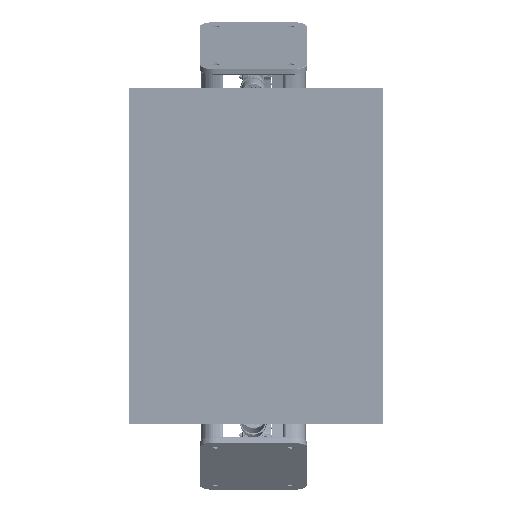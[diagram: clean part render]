
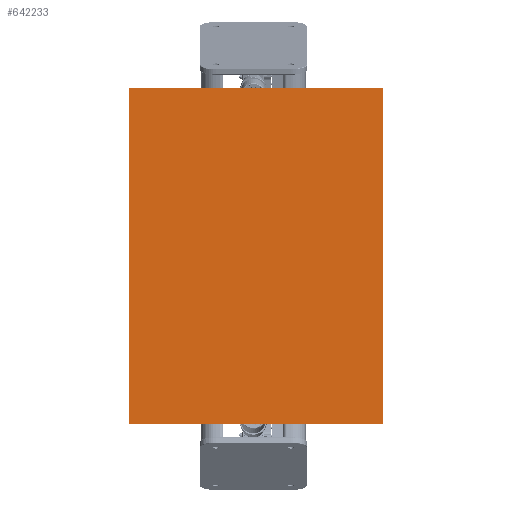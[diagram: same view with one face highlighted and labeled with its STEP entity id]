
A CAD part, front view. The second image highlights one B-rep face of the part: STEP entity #642233.
In plain terms, the highlighted planar face has unit normal (0, -1, 0) as drawn and (0, 0, -1) by its records, which use the part's own axes.
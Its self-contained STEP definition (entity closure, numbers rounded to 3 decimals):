
#642118=DIRECTION('',(0.,1.,0.));
#642119=VECTOR('',#642118,340.);
#642120=CARTESIAN_POINT('',(-225.,-170.,-860.));
#642121=LINE('',#642120,#642119);
#642122=DIRECTION('',(-1.,0.,0.));
#642123=VECTOR('',#642122,450.);
#642124=CARTESIAN_POINT('',(225.,-170.,-860.));
#642125=LINE('',#642124,#642123);
#642126=DIRECTION('',(0.,1.,0.));
#642127=VECTOR('',#642126,340.);
#642128=CARTESIAN_POINT('',(225.,-170.,-860.));
#642129=LINE('',#642128,#642127);
#642130=DIRECTION('',(-1.,0.,0.));
#642131=VECTOR('',#642130,450.);
#642132=CARTESIAN_POINT('',(225.,170.,-860.));
#642133=LINE('',#642132,#642131);
#642142=CARTESIAN_POINT('',(225.,-170.,-860.));
#642143=CARTESIAN_POINT('',(-225.,-170.,-860.));
#642144=VERTEX_POINT('',#642142);
#642145=VERTEX_POINT('',#642143);
#642146=CARTESIAN_POINT('',(225.,170.,-860.));
#642147=CARTESIAN_POINT('',(-225.,170.,-860.));
#642148=VERTEX_POINT('',#642146);
#642149=VERTEX_POINT('',#642147);
#642222=CARTESIAN_POINT('',(225.,-180.,-860.));
#642223=DIRECTION('',(0.,0.,-1.));
#642224=DIRECTION('',(-1.,0.,0.));
#642225=AXIS2_PLACEMENT_3D('',#642222,#642223,#642224);
#642226=PLANE('',#642225);
#642227=ORIENTED_EDGE('',*,*,#642173,.F.);
#642228=ORIENTED_EDGE('',*,*,#642188,.T.);
#642229=ORIENTED_EDGE('',*,*,#642204,.T.);
#642230=ORIENTED_EDGE('',*,*,#642217,.F.);
#642231=EDGE_LOOP('',(#642227,#642228,#642229,#642230));
#642232=FACE_OUTER_BOUND('',#642231,.F.);
#642233=ADVANCED_FACE('',(#642232),#642226,.T.);
#642173=EDGE_CURVE('',#642144,#642145,#642125,.T.);
#642188=EDGE_CURVE('',#642144,#642148,#642129,.T.);
#642204=EDGE_CURVE('',#642148,#642149,#642133,.T.);
#642217=EDGE_CURVE('',#642145,#642149,#642121,.T.);
